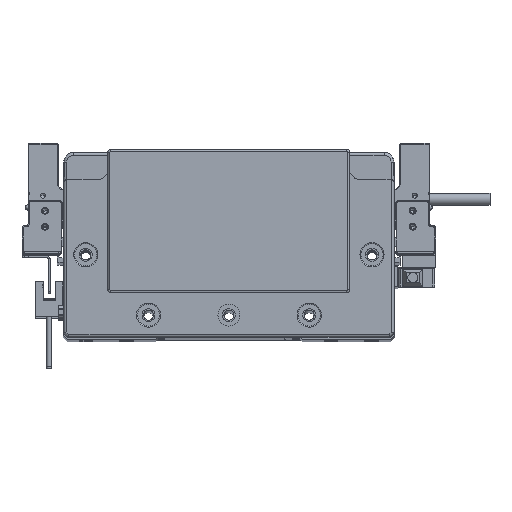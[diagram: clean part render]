
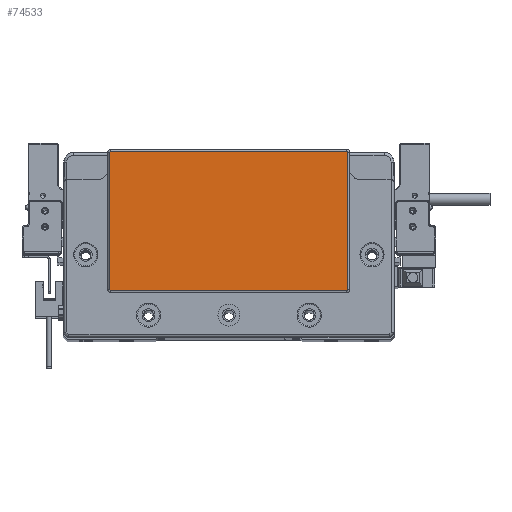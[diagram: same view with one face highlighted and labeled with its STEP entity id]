
A CAD part, top view. The second image highlights one B-rep face of the part: STEP entity #74533.
In plain terms, the highlighted planar face has unit normal (0, 0, 1) as drawn and (0, 0, -1) by its records, which use the part's own axes.
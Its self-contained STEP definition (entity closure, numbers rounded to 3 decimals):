
#1599 = EDGE_CURVE ( 'NONE', #42625, #18796, #78671, .T. ) ;
#2872 = CARTESIAN_POINT ( 'NONE',  ( -58.75, -23.8, -2. ) ) ;
#3489 = CARTESIAN_POINT ( 'NONE',  ( -58.75, 45.3, -2. ) ) ;
#4137 = VERTEX_POINT ( 'NONE', #85228 ) ;
#6857 = CARTESIAN_POINT ( 'NONE',  ( 58.75, 45.3, -2. ) ) ;
#7650 = VECTOR ( 'NONE', #70970, 1000. ) ;
#8875 = EDGE_CURVE ( 'NONE', #69983, #36051, #82089, .T. ) ;
#11425 = CARTESIAN_POINT ( 'NONE',  ( 58.75, 45.8, -2. ) ) ;
#12870 = VERTEX_POINT ( 'NONE', #20181 ) ;
#12890 = EDGE_CURVE ( 'NONE', #30442, #28486, #20426, .T. ) ;
#13982 = AXIS2_PLACEMENT_3D ( 'NONE', #6857, #46478, #32794 ) ;
#14009 = CARTESIAN_POINT ( 'NONE',  ( -58.75, -23.3, -2. ) ) ;
#14956 = EDGE_LOOP ( 'NONE', ( #44502, #35624, #71072, #85126, #59662, #44695, #63358, #47692 ) ) ;
#18017 = CARTESIAN_POINT ( 'NONE',  ( -59.25, 45.3, -2. ) ) ;
#18539 = CARTESIAN_POINT ( 'NONE',  ( 58.75, -23.3, -2. ) ) ;
#18796 = VERTEX_POINT ( 'NONE', #76656 ) ;
#20181 = CARTESIAN_POINT ( 'NONE',  ( 58.75, -23.8, -2. ) ) ;
#20287 = CARTESIAN_POINT ( 'NONE',  ( 59.25, -23.3, -2. ) ) ;
#20426 = CIRCLE ( 'NONE', #54178, 0.5 ) ;
#21830 = EDGE_CURVE ( 'NONE', #12870, #30442, #79689, .T. ) ;
#23307 = DIRECTION ( 'NONE',  ( -1., 0., 0. ) ) ;
#24072 = PLANE ( 'NONE',  #71372 ) ;
#24559 = EDGE_CURVE ( 'NONE', #4137, #12870, #52001, .T. ) ;
#26004 = DIRECTION ( 'NONE',  ( 0., -1., 0. ) ) ;
#27013 = VECTOR ( 'NONE', #53687, 1000. ) ;
#28486 = VERTEX_POINT ( 'NONE', #34541 ) ;
#30442 = VERTEX_POINT ( 'NONE', #2872 ) ;
#32142 = DIRECTION ( 'NONE',  ( -1., 0., 0. ) ) ;
#32190 = VECTOR ( 'NONE', #85406, 1000. ) ;
#32794 = DIRECTION ( 'NONE',  ( -1., 0., 0. ) ) ;
#34541 = CARTESIAN_POINT ( 'NONE',  ( -59.25, -23.3, -2. ) ) ;
#35624 = ORIENTED_EDGE ( 'NONE', *, *, #24559, .T. ) ;
#36051 = VERTEX_POINT ( 'NONE', #58881 ) ;
#42625 = VERTEX_POINT ( 'NONE', #83037 ) ;
#44502 = ORIENTED_EDGE ( 'NONE', *, *, #57512, .T. ) ;
#44695 = ORIENTED_EDGE ( 'NONE', *, *, #8875, .T. ) ;
#44885 = LINE ( 'NONE', #11425, #32190 ) ;
#45538 = AXIS2_PLACEMENT_3D ( 'NONE', #3489, #84078, #23307 ) ;
#46478 = DIRECTION ( 'NONE',  ( 0., 0., -1. ) ) ;
#47692 = ORIENTED_EDGE ( 'NONE', *, *, #1599, .T. ) ;
#50160 = VECTOR ( 'NONE', #26004, 1000. ) ;
#50924 = FACE_OUTER_BOUND ( 'NONE', #14956, .T. ) ;
#52001 = CIRCLE ( 'NONE', #73160, 0.5 ) ;
#52744 = DIRECTION ( 'NONE',  ( -1., 0., 0. ) ) ;
#53687 = DIRECTION ( 'NONE',  ( -1., 0., 0. ) ) ;
#54178 = AXIS2_PLACEMENT_3D ( 'NONE', #14009, #66852, #52744 ) ;
#54934 = EDGE_CURVE ( 'NONE', #28486, #69983, #64790, .T. ) ;
#57512 = EDGE_CURVE ( 'NONE', #18796, #4137, #80627, .T. ) ;
#58404 = DIRECTION ( 'NONE',  ( 0., 0., -1. ) ) ;
#58881 = CARTESIAN_POINT ( 'NONE',  ( -58.75, 45.8, -2. ) ) ;
#59662 = ORIENTED_EDGE ( 'NONE', *, *, #54934, .T. ) ;
#63358 = ORIENTED_EDGE ( 'NONE', *, *, #85246, .T. ) ;
#64790 = LINE ( 'NONE', #78453, #7650 ) ;
#66852 = DIRECTION ( 'NONE',  ( 0., 0., -1. ) ) ;
#69983 = VERTEX_POINT ( 'NONE', #18017 ) ;
#70970 = DIRECTION ( 'NONE',  ( 0., 1., 0. ) ) ;
#71072 = ORIENTED_EDGE ( 'NONE', *, *, #21830, .T. ) ;
#71199 = DIRECTION ( 'NONE',  ( -1., 0., 0. ) ) ;
#71372 = AXIS2_PLACEMENT_3D ( 'NONE', #77819, #58404, #71199 ) ;
#73107 = CARTESIAN_POINT ( 'NONE',  ( -58.75, -23.8, -2. ) ) ;
#73160 = AXIS2_PLACEMENT_3D ( 'NONE', #18539, #85899, #32142 ) ;
#74533 = ADVANCED_FACE ( 'NONE', ( #50924 ), #24072, .T. ) ;
#76656 = CARTESIAN_POINT ( 'NONE',  ( 59.25, 45.3, -2. ) ) ;
#77819 = CARTESIAN_POINT ( 'NONE',  ( 0., 0., -2. ) ) ;
#78453 = CARTESIAN_POINT ( 'NONE',  ( -59.25, 45.3, -2. ) ) ;
#78671 = CIRCLE ( 'NONE', #13982, 0.5 ) ;
#79689 = LINE ( 'NONE', #73107, #27013 ) ;
#80627 = LINE ( 'NONE', #20287, #50160 ) ;
#82089 = CIRCLE ( 'NONE', #45538, 0.5 ) ;
#83037 = CARTESIAN_POINT ( 'NONE',  ( 58.75, 45.8, -2. ) ) ;
#84078 = DIRECTION ( 'NONE',  ( 0., 0., -1. ) ) ;
#85126 = ORIENTED_EDGE ( 'NONE', *, *, #12890, .T. ) ;
#85228 = CARTESIAN_POINT ( 'NONE',  ( 59.25, -23.3, -2. ) ) ;
#85246 = EDGE_CURVE ( 'NONE', #36051, #42625, #44885, .T. ) ;
#85406 = DIRECTION ( 'NONE',  ( 1., 0., 0. ) ) ;
#85899 = DIRECTION ( 'NONE',  ( 0., 0., -1. ) ) ;
